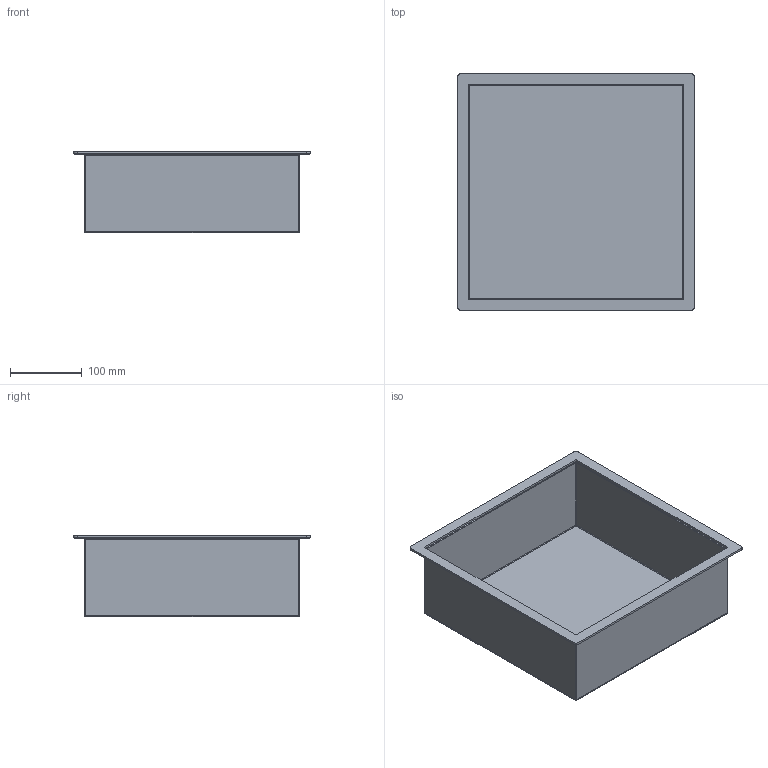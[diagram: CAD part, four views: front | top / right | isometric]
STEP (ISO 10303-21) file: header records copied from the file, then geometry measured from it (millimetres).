
FILE_DESCRIPTION (( 'STEP AP214' ), '1' );
FILE_NAME ('Pó³ka wnêkowa CAVELLA 30x30.STEP', '2025-03-27T11:24:49', ( '' ), ( '' ), 'SwSTEP 2.0', 'SolidWorks 2021', '' );
FILE_SCHEMA (( 'AUTOMOTIVE_DESIGN' ));
Length unit declared in the file: millimetre
Products named in the file (3): 01-015-0330-W-00-01; 01-015-0330-W-00-02; Pó³ka wnêkowa CAVELLA 30x30
Assembly tree (2 placements, depth 2):
  Pó³ka wnêkowa CAVELLA 30x30
    01-015-0330-W-00-01
    01-015-0330-W-00-02
Bounding box: 330 x 330 x 113 mm (x, y, z)
Volume: 292351 mm3; surface area: 516724 mm2
Topology: 2 solids, 2 shells, 136 faces, 332 edges, 200 vertices
Faces by surface type: plane 72, cylinder 56, bspline 8
Entity records: 4554 total; most frequent: CARTESIAN_POINT 1225, DIRECTION 666, ORIENTED_EDGE 664, EDGE_CURVE 332, AXIS2_PLACEMENT_3D 229, LINE 208, VECTOR 208, VERTEX_POINT 200
